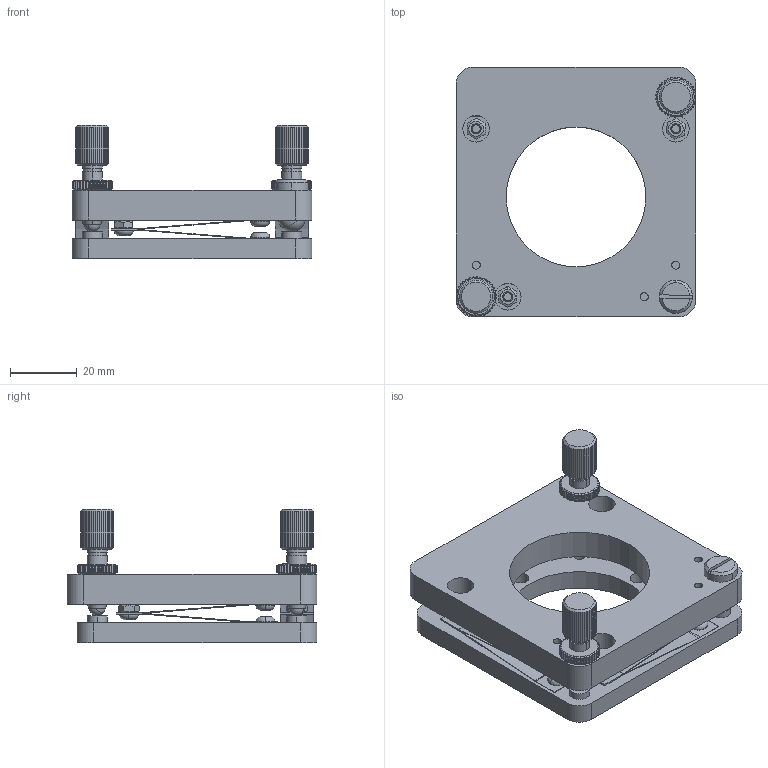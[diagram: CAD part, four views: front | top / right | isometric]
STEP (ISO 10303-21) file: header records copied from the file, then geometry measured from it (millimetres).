
FILE_DESCRIPTION (( 'STEP AP203' ), '1' );
FILE_NAME ('5OM61-2-9S67M.STEP', '2008-10-29T12:03:16', ( 'Darius' ), ( '' ), 'SwSTEP 2.0', 'SolidWorks 2003240', '' );
FILE_SCHEMA (( 'CONFIG_CONTROL_DESIGN' ));
Products named in the file (1): 5OM61-2-9S67M
Bounding box: 72 x 75 x 40 mm (x, y, z)
Volume: 60326.5 mm3; surface area: 29834.1 mm2
Topology: 1 solids, 1 shells, 1176 faces, 3317 edges, 2197 vertices
Faces by surface type: plane 641, cylinder 323, bspline 122, cone 72, torus 18
Entity records: 56909 total; most frequent: CARTESIAN_POINT 27635, ORIENTED_EDGE 6610, DIRECTION 5404, EDGE_CURVE 3305, VERTEX_POINT 2197, AXIS2_PLACEMENT_3D 1940, LINE 1524, VECTOR 1524
